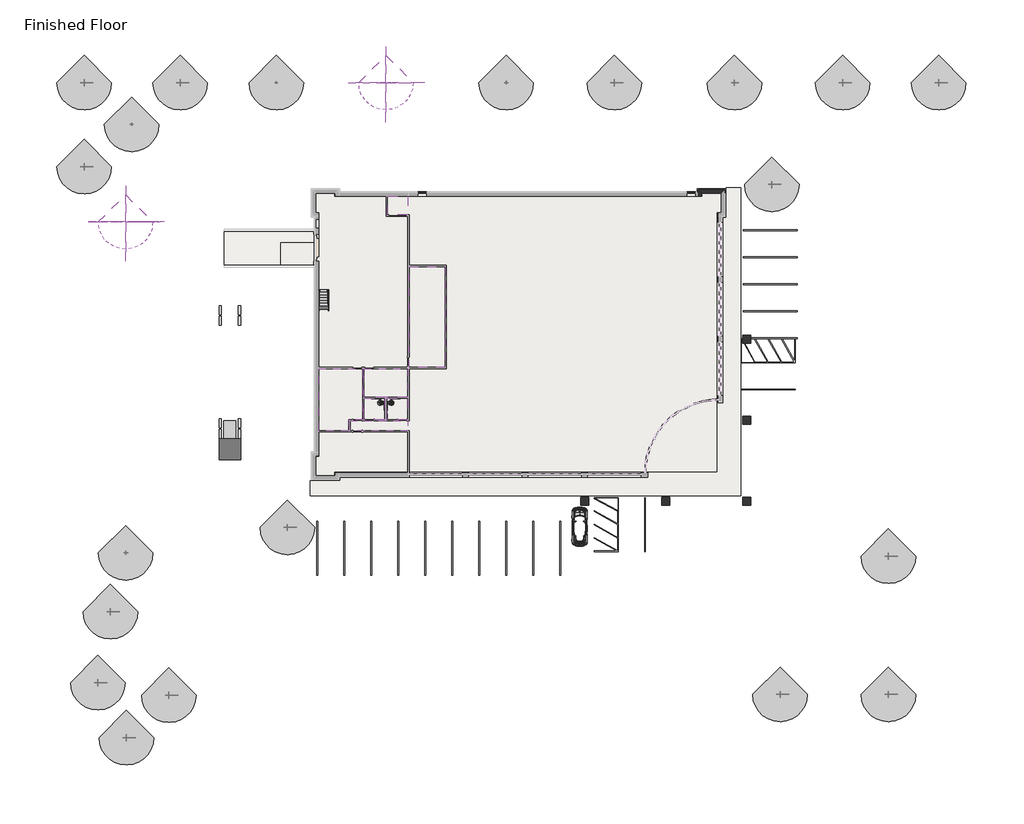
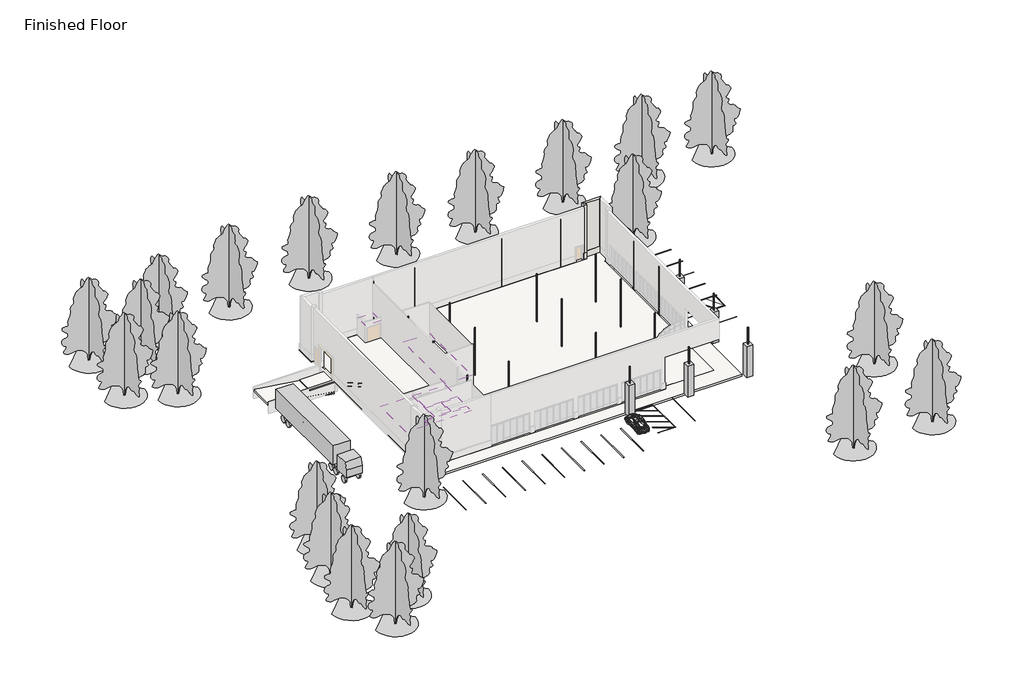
# One storey, part 6 of 6: 34 columns, 27 proxies, 22 geographic elements, 7 coverings, 4 slabs, 4 walls, 2 flow terminals, 2 members, 3 other elements.
"""IFC4 building model written with IfcOpenShell, lengths in millimetres."""

from ifc_helpers import new_model, si_unit, point, frame, frame_2d, origin, origin_with_axes, place, context, project, spatial, polyline, circle_curve, trimmed, segment, composite_curve, outline, extrude, faceted_brep, transform, mapped, element, save
from components import specialty_equipment_9c1522b1, specialty_equipment_28a0cf3e, proxy_832_grab_bars_51fee9e1, proxy_832_grab_bars_99aa9c40, proxy_832_grab_bars_3fec91fc, proxy_832_grab_bars_8b3c1caf, parking_space_ada_44d2459f, parking_space_ada_2abbe88e, parking_space_9_x_18_90_deg_9fe051ab, parking_space_9_x_18_90_deg_b8b21359, rpc_beetle_rpc_beetle_e6dad58a, sa12_a1c1abd2, sa12_6de3b1ef, semi_truck_semi_truck_f452f70d, hss_hollow_structural_section_column_hss4x4x1_4_63ca78b6, flow_terminal_a7ec1c32, flow_terminal_bb9b5f27, rpc_tree_deciduous_lombardy_poplar_40_01077960, guardrail_pipe_35f92d01, guardrail_pipe_0cfc6b11, stair_flight_92ed7c1f

model = new_model("IFC4")

# Units and contexts
model_context = context("Model", 3, world=origin())
ifc_project = project(units=[si_unit("LENGTHUNIT", "METRE", prefix="MILLI")], contexts=[model_context])

# Site, building, storey
site = spatial("IfcSite", under=ifc_project)
building = spatial("IfcBuilding", under=site)
storey = spatial("IfcBuildingStorey", under=building, Name="Finished Floor", Elevation=0.0)

# Proxies
placement = place(None, origin())
specialty_equipment_shape = specialty_equipment_9c1522b1(model_context)
element("IfcBuildingElementProxy", 1, Name="Bradley-Washroom_Accessories-Mirrors-740_Custom : Bradley-Washroom_Accessories-Mirrors-740_Custom", ObjectType="Bradley-Washroom_Accessories-Mirrors-740_Custom : Bradley-Washroom_Accessories-Mirrors-740_Custom", at=placement, inside=storey, context=model_context, shape_type="MappedRepresentation", body=[
    mapped(specialty_equipment_shape, transform((-15156.6602721, -8294.2625557, 1371.0753881), x_axis=(0.0, 1.0, 0.0), y_axis=(0.0, 0.0, 1.0), z_axis=(1.0, 0.0, 0.0))),
])
specialty_equipment_2_shape = specialty_equipment_28a0cf3e(model_context)
element("IfcBuildingElementProxy", 2, Name="Bradley-Washroom_Accessories-Mirrors-740_Custom : Bradley-Washroom_Accessories-Mirrors-740_Custom", ObjectType="Bradley-Washroom_Accessories-Mirrors-740_Custom : Bradley-Washroom_Accessories-Mirrors-740_Custom", at=placement, inside=storey, context=model_context, shape_type="MappedRepresentation", body=[
    mapped(specialty_equipment_2_shape, transform((-15328.1102721, -8294.2625557, 1371.0753881), x_axis=(0.0, 1.0, 0.0), y_axis=(0.0, 0.0, -1.0), z_axis=(-1.0, 0.0, 0.0))),
])
proxy_832_grab_bars_shape = proxy_832_grab_bars_51fee9e1(model_context)
element("IfcBuildingElementProxy", 3, Name="832_Grab_Bars : 8320-001360", ObjectType="832_Grab_Bars : 8320-001360", at=placement, inside=storey, context=model_context, shape_type="MappedRepresentation", body=[
    mapped(proxy_832_grab_bars_shape, transform((-15156.6602721, -7387.8000557, 1374.775), x_axis=(0.0, 1.0, 0.0), y_axis=(0.0, 0.0, 1.0), z_axis=(1.0, 0.0, 0.0))),
])
proxy_832_grab_bars_2_shape = proxy_832_grab_bars_99aa9c40(model_context)
element("IfcBuildingElementProxy", 4, Name="832_Grab_Bars : 8320-001420", ObjectType="832_Grab_Bars : 8320-001420", at=placement, inside=storey, context=model_context, shape_type="MappedRepresentation", body=[
    mapped(proxy_832_grab_bars_2_shape, transform((-14395.8938987, -6516.2625557, 1374.775), x_axis=(1.0, 0.0, 0.0), y_axis=(0.0, 0.0, 1.0), z_axis=(0.0, -1.0, 0.0))),
])
proxy_832_grab_bars_3_shape = proxy_832_grab_bars_3fec91fc(model_context)
element("IfcBuildingElementProxy", 5, Name="832_Grab_Bars : 8320-001360", ObjectType="832_Grab_Bars : 8320-001360", at=placement, inside=storey, context=model_context, shape_type="MappedRepresentation", body=[
    mapped(proxy_832_grab_bars_3_shape, transform((-15328.1102721, -7387.8000557, 1374.775), x_axis=(0.0, 1.0, 0.0), y_axis=(0.0, 0.0, -1.0), z_axis=(-1.0, 0.0, 0.0))),
])
proxy_832_grab_bars_4_shape = proxy_832_grab_bars_8b3c1caf(model_context)
element("IfcBuildingElementProxy", 6, Name="832_Grab_Bars : 8320-001420", ObjectType="832_Grab_Bars : 8320-001420", at=placement, inside=storey, context=model_context, shape_type="MappedRepresentation", body=[
    mapped(proxy_832_grab_bars_4_shape, transform((-16088.8766454, -6516.2625557, 1374.775), x_axis=(-1.0, 0.0, 0.0), y_axis=(0.0, 0.0, -1.0), z_axis=(0.0, -1.0, 0.0))),
])
parking_space_ada_shape = parking_space_ada_44d2459f(model_context)
element("IfcBuildingElementProxy", 7, Name="Parking Space - ADA : 9' x 18' (8' Aisle)", ObjectType="Parking Space - ADA : 9' x 18' (8' Aisle)", at=placement, inside=storey, context=model_context, shape_type="MappedRepresentation", body=[
    mapped(parking_space_ada_shape, transform((21677.3525664, -6888.3808535, 0.0), x_axis=(0.0, 1.0, 0.0), y_axis=(-1.0, 0.0, 0.0), z_axis=(0.0, 0.0, 1.0))),
])
parking_space_ada_2_shape = parking_space_ada_2abbe88e(model_context)
element("IfcBuildingElementProxy", 8, Name="Parking Space - ADA : 9' x 18' (8' Aisle)", ObjectType="Parking Space - ADA : 9' x 18' (8' Aisle)", at=placement, inside=storey, context=model_context, shape_type="MappedRepresentation", body=[
    mapped(parking_space_ada_2_shape, transform((12311.5767758, -17454.1566441, 0.0), x_axis=(-1.0, 0.0, 0.0), y_axis=(0.0, -1.0, 0.0), z_axis=(0.0, 0.0, 1.0))),
])
parking_space_9_x_18_90_deg_shape = parking_space_9_x_18_90_deg_9fe051ab(model_context)
element("IfcBuildingElementProxy", 9, Name="Parking Space : 9' x 18' - 90 deg", ObjectType="Parking Space : 9' x 18' - 90 deg", at=placement, inside=storey, context=model_context, shape_type="MappedRepresentation", body=[
    mapped(parking_space_9_x_18_90_deg_shape, transform((2465.0147279, -18994.9313057, 0.0), x_axis=(-1.0, 0.0, 0.0), y_axis=(0.0, -1.0, 0.0), z_axis=(0.0, 0.0, 1.0))),
])
element("IfcBuildingElementProxy", 10, Name="Parking Space : 9' x 18' - 90 deg", ObjectType="Parking Space : 9' x 18' - 90 deg", at=placement, inside=storey, context=model_context, shape_type="MappedRepresentation", body=[
    mapped(parking_space_9_x_18_90_deg_shape, transform((-278.1852721, -18994.9313057, 0.0), x_axis=(-1.0, 0.0, 0.0), y_axis=(0.0, -1.0, 0.0), z_axis=(0.0, 0.0, 1.0))),
])
element("IfcBuildingElementProxy", 11, Name="Parking Space : 9' x 18' - 90 deg", ObjectType="Parking Space : 9' x 18' - 90 deg", at=placement, inside=storey, context=model_context, shape_type="MappedRepresentation", body=[
    mapped(parking_space_9_x_18_90_deg_shape, transform((-3021.3852721, -18994.9313057, 0.0), x_axis=(-1.0, 0.0, 0.0), y_axis=(0.0, -1.0, 0.0), z_axis=(0.0, 0.0, 1.0))),
])
element("IfcBuildingElementProxy", 12, Name="Parking Space : 9' x 18' - 90 deg", ObjectType="Parking Space : 9' x 18' - 90 deg", at=placement, inside=storey, context=model_context, shape_type="MappedRepresentation", body=[
    mapped(parking_space_9_x_18_90_deg_shape, transform((-5764.5852721, -18994.9313057, 0.0), x_axis=(-1.0, 0.0, 0.0), y_axis=(0.0, -1.0, 0.0), z_axis=(0.0, 0.0, 1.0))),
])
element("IfcBuildingElementProxy", 13, Name="Parking Space : 9' x 18' - 90 deg", ObjectType="Parking Space : 9' x 18' - 90 deg", at=placement, inside=storey, context=model_context, shape_type="MappedRepresentation", body=[
    mapped(parking_space_9_x_18_90_deg_shape, transform((-8507.7852721, -18994.9313057, 0.0), x_axis=(-1.0, 0.0, 0.0), y_axis=(0.0, -1.0, 0.0), z_axis=(0.0, 0.0, 1.0))),
])
element("IfcBuildingElementProxy", 14, Name="Parking Space : 9' x 18' - 90 deg", ObjectType="Parking Space : 9' x 18' - 90 deg", at=placement, inside=storey, context=model_context, shape_type="MappedRepresentation", body=[
    mapped(parking_space_9_x_18_90_deg_shape, transform((-11250.9852721, -18994.9313057, 0.0), x_axis=(-1.0, 0.0, 0.0), y_axis=(0.0, -1.0, 0.0), z_axis=(0.0, 0.0, 1.0))),
])
element("IfcBuildingElementProxy", 15, Name="Parking Space : 9' x 18' - 90 deg", ObjectType="Parking Space : 9' x 18' - 90 deg", at=placement, inside=storey, context=model_context, shape_type="MappedRepresentation", body=[
    mapped(parking_space_9_x_18_90_deg_shape, transform((-13994.1852721, -18994.9313057, 0.0), x_axis=(-1.0, 0.0, 0.0), y_axis=(0.0, -1.0, 0.0), z_axis=(0.0, 0.0, 1.0))),
])
element("IfcBuildingElementProxy", 16, Name="Parking Space : 9' x 18' - 90 deg", ObjectType="Parking Space : 9' x 18' - 90 deg", at=placement, inside=storey, context=model_context, shape_type="MappedRepresentation", body=[
    mapped(parking_space_9_x_18_90_deg_shape, transform((-16737.3852721, -18994.9313057, 0.0), x_axis=(-1.0, 0.0, 0.0), y_axis=(0.0, -1.0, 0.0), z_axis=(0.0, 0.0, 1.0))),
])
element("IfcBuildingElementProxy", 17, Name="Parking Space : 9' x 18' - 90 deg", ObjectType="Parking Space : 9' x 18' - 90 deg", at=placement, inside=storey, context=model_context, shape_type="MappedRepresentation", body=[
    mapped(parking_space_9_x_18_90_deg_shape, transform((-19480.5852721, -18994.9313057, 0.0), x_axis=(-1.0, 0.0, 0.0), y_axis=(0.0, -1.0, 0.0), z_axis=(0.0, 0.0, 1.0))),
])
element("IfcBuildingElementProxy", 18, Name="Parking Space : 9' x 18' - 90 deg", ObjectType="Parking Space : 9' x 18' - 90 deg", at=placement, inside=storey, context=model_context, shape_type="MappedRepresentation", body=[
    mapped(parking_space_9_x_18_90_deg_shape, transform((-22223.7852721, -18994.9313057, 0.0), x_axis=(-1.0, 0.0, 0.0), y_axis=(0.0, -1.0, 0.0), z_axis=(0.0, 0.0, 1.0))),
])
parking_space_9_x_18_90_deg_2_shape = parking_space_9_x_18_90_deg_b8b21359(model_context)
element("IfcBuildingElementProxy", 19, Name="Parking Space : 9' x 18' - 90 deg", ObjectType="Parking Space : 9' x 18' - 90 deg", at=placement, inside=storey, context=model_context, shape_type="MappedRepresentation", body=[
    mapped(parking_space_9_x_18_90_deg_2_shape, transform((21018.1272279, -441.8188057, 0.0), x_axis=(0.0, 1.0, 0.0), y_axis=(-1.0, 0.0, 0.0), z_axis=(0.0, 0.0, 1.0))),
])
element("IfcBuildingElementProxy", 20, Name="Parking Space : 9' x 18' - 90 deg", ObjectType="Parking Space : 9' x 18' - 90 deg", at=placement, inside=storey, context=model_context, shape_type="MappedRepresentation", body=[
    mapped(parking_space_9_x_18_90_deg_2_shape, transform((21018.1272279, 2301.3811943, 0.0), x_axis=(0.0, 1.0, 0.0), y_axis=(-1.0, 0.0, 0.0), z_axis=(0.0, 0.0, 1.0))),
])
element("IfcBuildingElementProxy", 21, Name="Parking Space : 9' x 18' - 90 deg", ObjectType="Parking Space : 9' x 18' - 90 deg", at=placement, inside=storey, context=model_context, shape_type="MappedRepresentation", body=[
    mapped(parking_space_9_x_18_90_deg_2_shape, transform((21018.1272279, 5044.5811943, 0.0), x_axis=(0.0, 1.0, 0.0), y_axis=(-1.0, 0.0, 0.0), z_axis=(0.0, 0.0, 1.0))),
])
element("IfcBuildingElementProxy", 22, Name="Parking Space : 9' x 18' - 90 deg", ObjectType="Parking Space : 9' x 18' - 90 deg", at=placement, inside=storey, context=model_context, shape_type="MappedRepresentation", body=[
    mapped(parking_space_9_x_18_90_deg_2_shape, transform((21018.1272279, 7787.7811943, 0.0), x_axis=(0.0, 1.0, 0.0), y_axis=(-1.0, 0.0, 0.0), z_axis=(0.0, 0.0, 1.0))),
])
element("IfcBuildingElementProxy", 23, Name="Parking Space : 9' x 18' - 90 deg", ObjectType="Parking Space : 9' x 18' - 90 deg", at=placement, inside=storey, context=model_context, shape_type="MappedRepresentation", body=[
    mapped(parking_space_9_x_18_90_deg_2_shape, transform((21018.1272279, 10530.9811943, 0.0), x_axis=(0.0, 1.0, 0.0), y_axis=(-1.0, 0.0, 0.0), z_axis=(0.0, 0.0, 1.0))),
])
rpc_beetle_rpc_beetle_shape = rpc_beetle_rpc_beetle_e6dad58a(model_context)
element("IfcBuildingElementProxy", 24, Name="RPC Beetle : RPC Beetle", ObjectType="RPC Beetle : RPC Beetle", at=placement, inside=storey, context=model_context, shape_type="MappedRepresentation", body=[
    mapped(rpc_beetle_rpc_beetle_shape, transform((4429.9147279, -20779.5188057, -150.0), x_axis=(1.0, 0.0, 0.0), y_axis=(0.0, 1.0, 0.0), z_axis=(0.0, 0.0, 1.0))),
])
sa12_shape = sa12_a1c1abd2(model_context)
element("IfcBuildingElementProxy", 25, Name="Security_Accessories-Bradley-SA12 : SA12", ObjectType="Security_Accessories-Bradley-SA12 : SA12", at=placement, inside=storey, context=model_context, shape_type="MappedRepresentation", body=[
    mapped(sa12_shape, transform((-14264.4852721, -6516.2625557, 482.6), x_axis=(1.0, 0.0, 0.0), y_axis=(0.0, 0.0, 1.0), z_axis=(0.0, -1.0, 0.0))),
])
sa12_2_shape = sa12_6de3b1ef(model_context)
element("IfcBuildingElementProxy", 26, Name="Security_Accessories-Bradley-SA12 : SA12", ObjectType="Security_Accessories-Bradley-SA12 : SA12", at=placement, inside=storey, context=model_context, shape_type="MappedRepresentation", body=[
    mapped(sa12_2_shape, transform((-16137.7352721, -6516.2625557, 310.7591476), x_axis=(-1.0, 0.0, 0.0), y_axis=(0.0, 0.0, -1.0), z_axis=(0.0, -1.0, 0.0))),
])
semi_truck_semi_truck_shape = semi_truck_semi_truck_f452f70d(model_context)
element("IfcBuildingElementProxy", 27, Name="Semi Truck : Semi Truck", ObjectType="Semi Truck : Semi Truck", at=placement, inside=storey, context=model_context, shape_type="MappedRepresentation", body=[
    mapped(semi_truck_semi_truck_shape, transform((-32286.4602721, 4009.6561943, 0.0), x_axis=(0.0, -1.0, 0.0), y_axis=(1.0, 0.0, 0.0), z_axis=(0.0, 0.0, 1.0))),
])

# Columns
hss_hollow_structural_section_column_hss4x4x1_4_shape = hss_hollow_structural_section_column_hss4x4x1_4_63ca78b6(model_context)
element("IfcColumn", 28, ObjectType="HSS-Hollow Structural Section-Column : HSS4X4X1/4", at=placement, inside=storey, context=model_context, shape_type="MappedRepresentation", body=[
    mapped(hss_hollow_structural_section_column_hss4x4x1_4_shape, transform((-22117.8477721, -514.7188057, 0.0), x_axis=(-1.0, 0.0, 0.0), y_axis=(0.0, -1.0, 0.0), z_axis=(0.0, 0.0, 1.0))),
])
element("IfcColumn", 29, ObjectType="HSS-Hollow Structural Section-Column : HSS4X4X1/4", at=placement, inside=storey, context=model_context, shape_type="MappedRepresentation", body=[
    mapped(hss_hollow_structural_section_column_hss4x4x1_4_shape, transform((-22117.8477721, -8730.8250557, 0.0), x_axis=(-1.0, 0.0, 0.0), y_axis=(0.0, -1.0, 0.0), z_axis=(0.0, 0.0, 1.0))),
])
element("IfcColumn", 30, ObjectType="HSS-Hollow Structural Section-Column : HSS4X4X1/4", at=placement, inside=storey, context=model_context, shape_type="MappedRepresentation", body=[
    mapped(hss_hollow_structural_section_column_hss4x4x1_4_shape, transform((-22117.8477721, 5555.8811943, 0.0), x_axis=(-1.0, 0.0, 0.0), y_axis=(0.0, -1.0, 0.0), z_axis=(0.0, 0.0, 1.0))),
])
element("IfcColumn", 31, ObjectType="HSS-Hollow Structural Section-Column : HSS4X4X1/4", at=placement, inside=storey, context=model_context, shape_type="MappedRepresentation", body=[
    mapped(hss_hollow_structural_section_column_hss4x4x1_4_shape, transform((-12943.6852721, 14044.2436943, 0.0), x_axis=(-1.0, 0.0, 0.0), y_axis=(0.0, -1.0, 0.0), z_axis=(0.0, 0.0, 1.0))),
])
element("IfcColumn", 32, ObjectType="HSS-Hollow Structural Section-Column : HSS4X4X1/4", at=placement, inside=storey, context=model_context, shape_type="MappedRepresentation", body=[
    mapped(hss_hollow_structural_section_column_hss4x4x1_4_shape, transform((-12943.6852721, -514.7188057, 0.0), x_axis=(-1.0, 0.0, 0.0), y_axis=(0.0, -1.0, 0.0), z_axis=(0.0, 0.0, 1.0))),
])
element("IfcColumn", 33, ObjectType="HSS-Hollow Structural Section-Column : HSS4X4X1/4", at=placement, inside=storey, context=model_context, shape_type="MappedRepresentation", body=[
    mapped(hss_hollow_structural_section_column_hss4x4x1_4_shape, transform((-12943.6852721, -8730.8250557, 0.0), x_axis=(-1.0, 0.0, 0.0), y_axis=(0.0, -1.0, 0.0), z_axis=(0.0, 0.0, 1.0))),
])
element("IfcColumn", 34, ObjectType="HSS-Hollow Structural Section-Column : HSS4X4X1/4", at=placement, inside=storey, context=model_context, shape_type="MappedRepresentation", body=[
    mapped(hss_hollow_structural_section_column_hss4x4x1_4_shape, transform((-12943.6852721, -14105.3063057, 0.0), x_axis=(-1.0, 0.0, 0.0), y_axis=(0.0, -1.0, 0.0), z_axis=(0.0, 0.0, 1.0))),
])
element("IfcColumn", 35, ObjectType="HSS-Hollow Structural Section-Column : HSS4X4X1/4", at=placement, inside=storey, context=model_context, shape_type="MappedRepresentation", body=[
    mapped(hss_hollow_structural_section_column_hss4x4x1_4_shape, transform((-12943.6852721, 5555.8811943, 0.0), x_axis=(-1.0, 0.0, 0.0), y_axis=(0.0, -1.0, 0.0), z_axis=(0.0, 0.0, 1.0))),
])
element("IfcColumn", 36, ObjectType="HSS-Hollow Structural Section-Column : HSS4X4X1/4", at=placement, inside=storey, context=model_context, shape_type="MappedRepresentation", body=[
    mapped(hss_hollow_structural_section_column_hss4x4x1_4_shape, transform((4937.9147279, 14044.2436943, 0.0), x_axis=(-1.0, 0.0, 0.0), y_axis=(0.0, -1.0, 0.0), z_axis=(0.0, 0.0, 1.0))),
])
element("IfcColumn", 37, ObjectType="HSS-Hollow Structural Section-Column : HSS4X4X1/4", at=placement, inside=storey, context=model_context, shape_type="MappedRepresentation", body=[
    mapped(hss_hollow_structural_section_column_hss4x4x1_4_shape, transform((4937.9147279, -514.7188057, 0.0), x_axis=(-1.0, 0.0, 0.0), y_axis=(0.0, -1.0, 0.0), z_axis=(0.0, 0.0, 1.0))),
])
element("IfcColumn", 38, ObjectType="HSS-Hollow Structural Section-Column : HSS4X4X1/4", at=placement, inside=storey, context=model_context, shape_type="MappedRepresentation", body=[
    mapped(hss_hollow_structural_section_column_hss4x4x1_4_shape, transform((4937.9147279, -8730.8250557, 0.0), x_axis=(-1.0, 0.0, 0.0), y_axis=(0.0, -1.0, 0.0), z_axis=(0.0, 0.0, 1.0))),
])
element("IfcColumn", 39, ObjectType="HSS-Hollow Structural Section-Column : HSS4X4X1/4", at=placement, inside=storey, context=model_context, shape_type="MappedRepresentation", body=[
    mapped(hss_hollow_structural_section_column_hss4x4x1_4_shape, transform((4937.9147279, -14105.3063057, 0.0), x_axis=(-1.0, 0.0, 0.0), y_axis=(0.0, -1.0, 0.0), z_axis=(0.0, 0.0, 1.0))),
])
element("IfcColumn", 40, ObjectType="HSS-Hollow Structural Section-Column : HSS4X4X1/4", at=placement, inside=storey, context=model_context, shape_type="MappedRepresentation", body=[
    mapped(hss_hollow_structural_section_column_hss4x4x1_4_shape, transform((4937.9147279, -16946.9313057, 0.0), x_axis=(-1.0, 0.0, 0.0), y_axis=(0.0, -1.0, 0.0), z_axis=(0.0, 0.0, 1.0))),
])
element("IfcColumn", 41, ObjectType="HSS-Hollow Structural Section-Column : HSS4X4X1/4", at=placement, inside=storey, context=model_context, shape_type="MappedRepresentation", body=[
    mapped(hss_hollow_structural_section_column_hss4x4x1_4_shape, transform((4937.9147279, 5555.8811943, 0.0), x_axis=(-1.0, 0.0, 0.0), y_axis=(0.0, -1.0, 0.0), z_axis=(0.0, 0.0, 1.0))),
])
element("IfcColumn", 42, ObjectType="HSS-Hollow Structural Section-Column : HSS4X4X1/4", at=placement, inside=storey, context=model_context, shape_type="MappedRepresentation", body=[
    mapped(hss_hollow_structural_section_column_hss4x4x1_4_shape, transform((13154.0209779, 14044.2436943, 0.0), x_axis=(-1.0, 0.0, 0.0), y_axis=(0.0, -1.0, 0.0), z_axis=(0.0, 0.0, 1.0))),
])
element("IfcColumn", 43, ObjectType="HSS-Hollow Structural Section-Column : HSS4X4X1/4", at=placement, inside=storey, context=model_context, shape_type="MappedRepresentation", body=[
    mapped(hss_hollow_structural_section_column_hss4x4x1_4_shape, transform((13154.0209779, -514.7188057, 0.0), x_axis=(-1.0, 0.0, 0.0), y_axis=(0.0, -1.0, 0.0), z_axis=(0.0, 0.0, 1.0))),
])
element("IfcColumn", 44, ObjectType="HSS-Hollow Structural Section-Column : HSS4X4X1/4", at=placement, inside=storey, context=model_context, shape_type="MappedRepresentation", body=[
    mapped(hss_hollow_structural_section_column_hss4x4x1_4_shape, transform((13154.0209779, -8730.8250557, 0.0), x_axis=(-1.0, 0.0, 0.0), y_axis=(0.0, -1.0, 0.0), z_axis=(0.0, 0.0, 1.0))),
])
element("IfcColumn", 45, ObjectType="HSS-Hollow Structural Section-Column : HSS4X4X1/4", at=placement, inside=storey, context=model_context, shape_type="MappedRepresentation", body=[
    mapped(hss_hollow_structural_section_column_hss4x4x1_4_shape, transform((13154.0209779, -16946.9313057, 0.0), x_axis=(-1.0, 0.0, 0.0), y_axis=(0.0, -1.0, 0.0), z_axis=(0.0, 0.0, 1.0))),
])
element("IfcColumn", 46, ObjectType="HSS-Hollow Structural Section-Column : HSS4X4X1/4", at=placement, inside=storey, context=model_context, shape_type="MappedRepresentation", body=[
    mapped(hss_hollow_structural_section_column_hss4x4x1_4_shape, transform((13154.0209779, 5555.8811943, 0.0), x_axis=(-1.0, 0.0, 0.0), y_axis=(0.0, -1.0, 0.0), z_axis=(0.0, 0.0, 1.0))),
])
element("IfcColumn", 47, ObjectType="HSS-Hollow Structural Section-Column : HSS4X4X1/4", at=placement, inside=storey, context=model_context, shape_type="MappedRepresentation", body=[
    mapped(hss_hollow_structural_section_column_hss4x4x1_4_shape, transform((18528.5022279, -514.7188057, 0.0), x_axis=(-1.0, 0.0, 0.0), y_axis=(0.0, -1.0, 0.0), z_axis=(0.0, 0.0, 1.0))),
])
element("IfcColumn", 48, ObjectType="HSS-Hollow Structural Section-Column : HSS4X4X1/4", at=placement, inside=storey, context=model_context, shape_type="MappedRepresentation", body=[
    mapped(hss_hollow_structural_section_column_hss4x4x1_4_shape, transform((18528.5022279, 5555.8811943, 0.0), x_axis=(-1.0, 0.0, 0.0), y_axis=(0.0, -1.0, 0.0), z_axis=(0.0, 0.0, 1.0))),
])
element("IfcColumn", 49, ObjectType="HSS-Hollow Structural Section-Column : HSS4X4X1/4", at=placement, inside=storey, context=model_context, shape_type="MappedRepresentation", body=[
    mapped(hss_hollow_structural_section_column_hss4x4x1_4_shape, transform((21370.1272279, -514.7188057, 0.0), x_axis=(-1.0, 0.0, 0.0), y_axis=(0.0, -1.0, 0.0), z_axis=(0.0, 0.0, 1.0))),
])
element("IfcColumn", 50, ObjectType="HSS-Hollow Structural Section-Column : HSS4X4X1/4", at=placement, inside=storey, context=model_context, shape_type="MappedRepresentation", body=[
    mapped(hss_hollow_structural_section_column_hss4x4x1_4_shape, transform((21370.1272279, -8730.8250557, 0.0), x_axis=(-1.0, 0.0, 0.0), y_axis=(0.0, -1.0, 0.0), z_axis=(0.0, 0.0, 1.0))),
])
element("IfcColumn", 51, ObjectType="HSS-Hollow Structural Section-Column : HSS4X4X1/4", at=placement, inside=storey, context=model_context, shape_type="MappedRepresentation", body=[
    mapped(hss_hollow_structural_section_column_hss4x4x1_4_shape, transform((21370.1272279, -16946.9313057, 0.0), x_axis=(-1.0, 0.0, 0.0), y_axis=(0.0, -1.0, 0.0), z_axis=(0.0, 0.0, 1.0))),
])
element("IfcColumn", 52, ObjectType="HSS-Hollow Structural Section-Column : HSS4X4X1/4", at=placement, inside=storey, context=model_context, shape_type="MappedRepresentation", body=[
    mapped(hss_hollow_structural_section_column_hss4x4x1_4_shape, transform((-7177.8852721, 14044.2436943, 0.0), x_axis=(-1.0, 0.0, 0.0), y_axis=(0.0, -1.0, 0.0), z_axis=(0.0, 0.0, 1.0))),
])
element("IfcColumn", 53, ObjectType="HSS-Hollow Structural Section-Column : HSS4X4X1/4", at=placement, inside=storey, context=model_context, shape_type="MappedRepresentation", body=[
    mapped(hss_hollow_structural_section_column_hss4x4x1_4_shape, transform((-7177.8852721, -514.7188057, 0.0), x_axis=(-1.0, 0.0, 0.0), y_axis=(0.0, -1.0, 0.0), z_axis=(0.0, 0.0, 1.0))),
])
element("IfcColumn", 54, ObjectType="HSS-Hollow Structural Section-Column : HSS4X4X1/4", at=placement, inside=storey, context=model_context, shape_type="MappedRepresentation", body=[
    mapped(hss_hollow_structural_section_column_hss4x4x1_4_shape, transform((-7177.8852721, -8730.8250557, 0.0), x_axis=(-1.0, 0.0, 0.0), y_axis=(0.0, -1.0, 0.0), z_axis=(0.0, 0.0, 1.0))),
])
element("IfcColumn", 55, ObjectType="HSS-Hollow Structural Section-Column : HSS4X4X1/4", at=placement, inside=storey, context=model_context, shape_type="MappedRepresentation", body=[
    mapped(hss_hollow_structural_section_column_hss4x4x1_4_shape, transform((-7177.8852721, -14105.3063057, 0.0), x_axis=(-1.0, 0.0, 0.0), y_axis=(0.0, -1.0, 0.0), z_axis=(0.0, 0.0, 1.0))),
])
element("IfcColumn", 56, ObjectType="HSS-Hollow Structural Section-Column : HSS4X4X1/4", at=placement, inside=storey, context=model_context, shape_type="MappedRepresentation", body=[
    mapped(hss_hollow_structural_section_column_hss4x4x1_4_shape, transform((-7177.8852721, 5555.8811943, 0.0), x_axis=(-1.0, 0.0, 0.0), y_axis=(0.0, -1.0, 0.0), z_axis=(0.0, 0.0, 1.0))),
])
element("IfcColumn", 57, ObjectType="Rectangular Column : 32\" x 32\"", at=placement, inside=storey, context=model_context, shape_type="SweptSolid", body=[
    extrude(outline(polyline([(5344.3147279, -16540.5313057), (5344.3147279, -17353.3313057), (4531.5147279, -17353.3313057), (4531.5147279, -16540.5313057), (5344.3147279, -16540.5313057)])), origin_with_axes(), (0.0, 0.0, 1.0), 4572.0),
])
element("IfcColumn", 58, ObjectType="Rectangular Column : 32\" x 32\"", at=placement, inside=storey, context=model_context, shape_type="SweptSolid", body=[
    extrude(outline(polyline([(13560.4209779, -16540.5313057), (13560.4209779, -17353.3313057), (12747.6209779, -17353.3313057), (12747.6209779, -16540.5313057), (13560.4209779, -16540.5313057)])), origin_with_axes(), (0.0, 0.0, 1.0), 4572.0),
])
element("IfcColumn", 59, ObjectType="Rectangular Column : 32\" x 32\"", at=placement, inside=storey, context=model_context, shape_type="SweptSolid", body=[
    extrude(outline(polyline([(21776.5272279, -16540.5313057), (21776.5272279, -17353.3313057), (20963.7272279, -17353.3313057), (20963.7272279, -16540.5313057), (21776.5272279, -16540.5313057)])), origin_with_axes(), (0.0, 0.0, 1.0), 4572.0),
])
element("IfcColumn", 60, ObjectType="Rectangular Column : 32\" x 32\"", at=placement, inside=storey, context=model_context, shape_type="SweptSolid", body=[
    extrude(outline(polyline([(21776.5272279, -8324.4250557), (21776.5272279, -9137.2250557), (20963.7272279, -9137.2250557), (20963.7272279, -8324.4250557), (21776.5272279, -8324.4250557)])), origin_with_axes(), (0.0, 0.0, 1.0), 4572.0),
])
element("IfcColumn", 61, ObjectType="Rectangular Column : 32\" x 32\"", at=placement, inside=storey, context=model_context, shape_type="SweptSolid", body=[
    extrude(outline(polyline([(21776.5272279, -108.3188057), (21776.5272279, -921.1188057), (20963.7272279, -921.1188057), (20963.7272279, -108.3188057), (21776.5272279, -108.3188057)])), origin_with_axes(), (0.0, 0.0, 1.0), 4572.0),
])

# Coverings
element("IfcCovering", 62, ObjectType="24\" x 24\" ACT.", at=placement, inside=storey, context=model_context, shape_type="SweptSolid", body=[
    extrude(outline(polyline([(-18858.7102721, -8795.9125557), (-13013.5352721, -8795.9125557), (-13013.5352721, -9792.8625557), (-18858.7102721, -9792.8625557), (-18858.7102721, -8795.9125557)])), frame((0.0, 0.0, 2438.4), z_axis=(0.0, 0.0, 1.0), x_axis=(1.0, 0.0, 0.0)), (0.0, 0.0, 1.0), 38.1),
])
element("IfcCovering", 63, ObjectType="24\" x 24\" ACT.", at=placement, inside=storey, context=model_context, shape_type="SweptSolid", body=[
    extrude(outline(polyline([(-17461.7102721, -6516.2625557), (-15328.1102721, -6516.2625557), (-15328.1102721, -8675.2625557), (-17461.7102721, -8675.2625557), (-17461.7102721, -6516.2625557)])), frame((0.0, 0.0, 2438.4), z_axis=(0.0, 0.0, 1.0), x_axis=(1.0, 0.0, 0.0)), (0.0, 0.0, 1.0), 38.1),
])
element("IfcCovering", 64, ObjectType="24\" x 24\" ACT.", at=placement, inside=storey, context=model_context, shape_type="SweptSolid", body=[
    extrude(outline(polyline([(-15156.6602721, -6516.2625557), (-13023.0602721, -6516.2625557), (-13023.0602721, -8675.2625557), (-15156.6602721, -8675.2625557), (-15156.6602721, -6516.2625557)])), frame((0.0, 0.0, 2438.4), z_axis=(0.0, 0.0, 1.0), x_axis=(1.0, 0.0, 0.0)), (0.0, 0.0, 1.0), 38.1),
])
element("IfcCovering", 65, ObjectType="24\" x 24\" ACT.", at=placement, inside=storey, context=model_context, shape_type="SweptSolid", body=[
    extrude(outline(polyline([(-13023.0602721, -3500.0125557), (-13023.0602721, -6395.6125557), (-15055.0602721, -6395.6125557), (-17461.7102721, -6395.6125557), (-17461.7102721, -3500.0125557), (-13023.0602721, -3500.0125557)])), frame((0.0, 0.0, 2438.4), z_axis=(0.0, 0.0, 1.0), x_axis=(1.0, 0.0, 0.0)), (0.0, 0.0, 1.0), 38.1),
])
element("IfcCovering", 66, ObjectType="24\" x 24\" ACT.", at=placement, inside=storey, context=model_context, shape_type="SweptSolid", body=[
    extrude(outline(polyline([(-22067.0477721, -9792.8625557), (-22067.0477721, -3500.0125557), (-17582.3602721, -3500.0125557), (-17582.3602721, -8675.2625557), (-18979.3602721, -8675.2625557), (-18979.3602721, -9792.8625557), (-22067.0477721, -9792.8625557)])), frame((0.0, 0.0, 2438.4), z_axis=(0.0, 0.0, 1.0), x_axis=(1.0, 0.0, 0.0)), (0.0, 0.0, 1.0), 38.1),
])
element("IfcCovering", 67, ObjectType="24\" x 24\" ACT.", at=placement, inside=storey, context=model_context, shape_type="SweptSolid", body=[
    extrude(outline(polyline([(-9216.2352721, -3379.3625557), (-12883.3602721, -3379.3625557), (-12883.3602721, 6836.1999443), (-9216.2352721, 6836.1999443), (-9216.2352721, -3379.3625557)])), frame((0.0, 0.0, 2438.4), z_axis=(0.0, 0.0, 1.0), x_axis=(1.0, 0.0, 0.0)), (0.0, 0.0, 1.0), 38.1),
])
element("IfcCovering", 68, ObjectType="24\" x 24\" ACT.", at=placement, inside=storey, context=model_context, shape_type="SweptSolid", body=[
    extrude(outline(polyline([(-13023.0602721, 13993.4436943), (-13023.0602721, 12083.6811943), (-15085.2227721, 12083.6811943), (-15085.2227721, 13993.4436943), (-13023.0602721, 13993.4436943)])), frame((0.0, 0.0, 2438.4), z_axis=(0.0, 0.0, 1.0), x_axis=(1.0, 0.0, 0.0)), (0.0, 0.0, 1.0), 38.1),
])

# Flow terminals
flow_terminal_shape = flow_terminal_a7ec1c32(model_context)
element("IfcFlowTerminal", 69, ObjectType="Toilet-Commercial-Wall-3D : 15\" Seat Height", at=placement, inside=storey, context=model_context, shape_type="MappedRepresentation", body=[
    mapped(flow_terminal_shape, transform((-15242.3852721, -6568.5594018, 0.0), x_axis=(0.0, -1.0, 0.0), y_axis=(1.0, 0.0, 0.0), z_axis=(0.0, 0.0, 1.0))),
])
flow_terminal_2_shape = flow_terminal_bb9b5f27(model_context)
element("IfcFlowTerminal", 70, ObjectType="Toilet-Commercial-Wall-3D : 15\" Seat Height", at=placement, inside=storey, context=model_context, shape_type="MappedRepresentation", body=[
    mapped(flow_terminal_2_shape, transform((-15242.3852721, -6568.5594018, 0.0), x_axis=(0.0, -1.0, 0.0), y_axis=(1.0, 0.0, 0.0), z_axis=(0.0, 0.0, 1.0))),
])

# Geographic elements
rpc_tree_deciduous_lombardy_poplar_40_shape = rpc_tree_deciduous_lombardy_poplar_40_01077960(model_context)
element("IfcGeographicElement", 71, ObjectType="RPC Tree - Deciduous : Lombardy Poplar - 40'", at=placement, inside=storey, context=model_context, shape_type="MappedRepresentation", body=[
    mapped(rpc_tree_deciduous_lombardy_poplar_40_shape, transform((23924.7147279, 15182.8561943, 0.0), x_axis=(1.0, 0.0, 0.0), y_axis=(0.0, 1.0, 0.0), z_axis=(0.0, 0.0, 1.0))),
])
element("IfcGeographicElement", 72, ObjectType="RPC Tree - Deciduous : Lombardy Poplar - 40'", at=placement, inside=storey, context=model_context, shape_type="MappedRepresentation", body=[
    mapped(rpc_tree_deciduous_lombardy_poplar_40_shape, transform((-25228.0602721, -19606.3188057, 0.0), x_axis=(1.0, 0.0, 0.0), y_axis=(0.0, 1.0, 0.0), z_axis=(0.0, 0.0, 1.0))),
])
element("IfcGeographicElement", 73, ObjectType="RPC Tree - Deciduous : Lombardy Poplar - 40'", at=placement, inside=storey, context=model_context, shape_type="MappedRepresentation", body=[
    mapped(rpc_tree_deciduous_lombardy_poplar_40_shape, transform((24756.5272279, -36555.7313057, 0.0), x_axis=(1.0, 0.0, 0.0), y_axis=(0.0, 1.0, 0.0), z_axis=(0.0, 0.0, 1.0))),
])
element("IfcGeographicElement", 74, ObjectType="RPC Tree - Deciduous : Lombardy Poplar - 40'", at=placement, inside=storey, context=model_context, shape_type="MappedRepresentation", body=[
    mapped(rpc_tree_deciduous_lombardy_poplar_40_shape, transform((35758.962333, -22534.9313057, 0.0), x_axis=(1.0, 0.0, 0.0), y_axis=(0.0, 1.0, 0.0), z_axis=(0.0, 0.0, 1.0))),
])
element("IfcGeographicElement", 75, ObjectType="RPC Tree - Deciduous : Lombardy Poplar - 40'", at=placement, inside=storey, context=model_context, shape_type="MappedRepresentation", body=[
    mapped(rpc_tree_deciduous_lombardy_poplar_40_shape, transform((35758.962333, -36555.7313057, 0.0), x_axis=(1.0, 0.0, 0.0), y_axis=(0.0, 1.0, 0.0), z_axis=(0.0, 0.0, 1.0))),
])
element("IfcGeographicElement", 76, ObjectType="RPC Tree - Deciduous : Lombardy Poplar - 40'", at=placement, inside=storey, context=model_context, shape_type="MappedRepresentation", body=[
    mapped(rpc_tree_deciduous_lombardy_poplar_40_shape, transform((40858.962333, 25516.2286529, 0.0), x_axis=(1.0, 0.0, 0.0), y_axis=(0.0, 1.0, 0.0), z_axis=(0.0, 0.0, 1.0))),
])
element("IfcGeographicElement", 77, ObjectType="RPC Tree - Deciduous : Lombardy Poplar - 40'", at=placement, inside=storey, context=model_context, shape_type="MappedRepresentation", body=[
    mapped(rpc_tree_deciduous_lombardy_poplar_40_shape, transform((31105.362333, 25516.2286529, 0.0), x_axis=(1.0, 0.0, 0.0), y_axis=(0.0, 1.0, 0.0), z_axis=(0.0, 0.0, 1.0))),
])
element("IfcGeographicElement", 78, ObjectType="RPC Tree - Deciduous : Lombardy Poplar - 40'", at=placement, inside=storey, context=model_context, shape_type="MappedRepresentation", body=[
    mapped(rpc_tree_deciduous_lombardy_poplar_40_shape, transform((20132.562333, 25516.2286529, 128.3956048), x_axis=(1.0, 0.0, 0.0), y_axis=(0.0, 1.0, 0.0), z_axis=(0.0, 0.0, 1.0))),
])
element("IfcGeographicElement", 79, ObjectType="RPC Tree - Deciduous : Lombardy Poplar - 40'", at=placement, inside=storey, context=model_context, shape_type="MappedRepresentation", body=[
    mapped(rpc_tree_deciduous_lombardy_poplar_40_shape, transform((7937.387333, 25516.2286529, 0.0), x_axis=(1.0, 0.0, 0.0), y_axis=(0.0, 1.0, 0.0), z_axis=(0.0, 0.0, 1.0))),
])
element("IfcGeographicElement", 80, ObjectType="RPC Tree - Deciduous : Lombardy Poplar - 40'", at=placement, inside=storey, context=model_context, shape_type="MappedRepresentation", body=[
    mapped(rpc_tree_deciduous_lombardy_poplar_40_shape, transform((-3035.412667, 25516.2286529, 582.1035451), x_axis=(1.0, 0.0, 0.0), y_axis=(0.0, 1.0, 0.0), z_axis=(0.0, 0.0, 1.0))),
])
element("IfcGeographicElement", 81, ObjectType="RPC Tree - Deciduous : Lombardy Poplar - 40'", at=placement, inside=storey, context=model_context, shape_type="MappedRepresentation", body=[
    mapped(rpc_tree_deciduous_lombardy_poplar_40_shape, transform((-15227.412667, 25516.2286529, 1322.2878048), x_axis=(1.0, 0.0, 0.0), y_axis=(0.0, 1.0, 0.0), z_axis=(0.0, 0.0, 1.0))),
])
element("IfcGeographicElement", 82, ObjectType="RPC Tree - Deciduous : Lombardy Poplar - 40'", at=placement, inside=storey, context=model_context, shape_type="MappedRepresentation", body=[
    mapped(rpc_tree_deciduous_lombardy_poplar_40_shape, transform((-26352.612667, 25516.2286529, 994.8129815), x_axis=(1.0, 0.0, 0.0), y_axis=(0.0, 1.0, 0.0), z_axis=(0.0, 0.0, 1.0))),
])
element("IfcGeographicElement", 83, ObjectType="RPC Tree - Deciduous : Lombardy Poplar - 40'", at=placement, inside=storey, context=model_context, shape_type="MappedRepresentation", body=[
    mapped(rpc_tree_deciduous_lombardy_poplar_40_shape, transform((-36106.212667, 25516.2286529, 0.0), x_axis=(1.0, 0.0, 0.0), y_axis=(0.0, 1.0, 0.0), z_axis=(0.0, 0.0, 1.0))),
])
element("IfcGeographicElement", 84, ObjectType="RPC Tree - Deciduous : Lombardy Poplar - 40'", at=placement, inside=storey, context=model_context, shape_type="MappedRepresentation", body=[
    mapped(rpc_tree_deciduous_lombardy_poplar_40_shape, transform((-45859.812667, 25516.2286529, 0.0), x_axis=(1.0, 0.0, 0.0), y_axis=(0.0, 1.0, 0.0), z_axis=(0.0, 0.0, 1.0))),
])
element("IfcGeographicElement", 85, ObjectType="RPC Tree - Deciduous : Lombardy Poplar - 40'", at=placement, inside=storey, context=model_context, shape_type="MappedRepresentation", body=[
    mapped(rpc_tree_deciduous_lombardy_poplar_40_shape, transform((-41039.2602721, 21279.2311943, 656.9543256), x_axis=(1.0, 0.0, 0.0), y_axis=(0.0, 1.0, 0.0), z_axis=(0.0, 0.0, 1.0))),
])
element("IfcGeographicElement", 86, ObjectType="RPC Tree - Deciduous : Lombardy Poplar - 40'", at=placement, inside=storey, context=model_context, shape_type="MappedRepresentation", body=[
    mapped(rpc_tree_deciduous_lombardy_poplar_40_shape, transform((-41648.8602721, 11373.2311943, 2154.3458455), x_axis=(1.0, 0.0, 0.0), y_axis=(0.0, 1.0, 0.0), z_axis=(0.0, 0.0, 1.0))),
])
element("IfcGeographicElement", 87, ObjectType="RPC Tree - Deciduous : Lombardy Poplar - 40'", at=placement, inside=storey, context=model_context, shape_type="MappedRepresentation", body=[
    mapped(rpc_tree_deciduous_lombardy_poplar_40_shape, transform((-41648.8602721, -22206.3188057, 433.1668917), x_axis=(1.0, 0.0, 0.0), y_axis=(0.0, 1.0, 0.0), z_axis=(0.0, 0.0, 1.0))),
])
element("IfcGeographicElement", 88, ObjectType="RPC Tree - Deciduous : Lombardy Poplar - 40'", at=placement, inside=storey, context=model_context, shape_type="MappedRepresentation", body=[
    mapped(rpc_tree_deciduous_lombardy_poplar_40_shape, transform((-45859.812667, 16981.8286529, 0.0), x_axis=(1.0, 0.0, 0.0), y_axis=(0.0, 1.0, 0.0), z_axis=(0.0, 0.0, 1.0))),
])
element("IfcGeographicElement", 89, ObjectType="RPC Tree - Deciduous : Lombardy Poplar - 40'", at=placement, inside=storey, context=model_context, shape_type="MappedRepresentation", body=[
    mapped(rpc_tree_deciduous_lombardy_poplar_40_shape, transform((-43179.8767573, -28154.3947556, 0.0), x_axis=(1.0, 0.0, 0.0), y_axis=(0.0, 1.0, 0.0), z_axis=(0.0, 0.0, 1.0))),
])
element("IfcGeographicElement", 90, ObjectType="RPC Tree - Deciduous : Lombardy Poplar - 40'", at=placement, inside=storey, context=model_context, shape_type="MappedRepresentation", body=[
    mapped(rpc_tree_deciduous_lombardy_poplar_40_shape, transform((-44450.1479065, -35358.4604304, 0.0), x_axis=(1.0, 0.0, 0.0), y_axis=(0.0, 1.0, 0.0), z_axis=(0.0, 0.0, 1.0))),
])
element("IfcGeographicElement", 91, ObjectType="RPC Tree - Deciduous : Lombardy Poplar - 40'", at=placement, inside=storey, context=model_context, shape_type="MappedRepresentation", body=[
    mapped(rpc_tree_deciduous_lombardy_poplar_40_shape, transform((-37246.0822317, -36628.7315797, 0.0), x_axis=(1.0, 0.0, 0.0), y_axis=(0.0, 1.0, 0.0), z_axis=(0.0, 0.0, 1.0))),
])
element("IfcGeographicElement", 92, ObjectType="RPC Tree - Deciduous : Lombardy Poplar - 40'", at=placement, inside=storey, context=model_context, shape_type="MappedRepresentation", body=[
    mapped(rpc_tree_deciduous_lombardy_poplar_40_shape, transform((-41556.6051698, -40939.2545178, 0.0), x_axis=(1.0, 0.0, 0.0), y_axis=(0.0, 1.0, 0.0), z_axis=(0.0, 0.0, 1.0))),
])

# Members
element("IfcMember", 93, ObjectType="Stringer - 2\" Width", at=placement, inside=storey, context=model_context, shape_type="SweptSolid", body=[
    extrude(outline(polyline([(4514.4811943, 214.5443726), (4514.4811943, 0.0), (4283.3824426, 0.0), (-514.7188057, 3030.3797357), (-514.7188057, 3390.8812147), (4514.4811943, 214.5443726)])), frame((-21101.8477721, 0.0, 0.0), z_axis=(1.0, 0.0, 0.0), x_axis=(0.0, 1.0, 0.0)), (0.0, 0.0, 1.0), 50.8),
])
element("IfcMember", 94, ObjectType="Stringer - 2\" Width", at=placement, inside=storey, context=model_context, shape_type="SweptSolid", body=[
    extrude(outline(polyline([(4514.4811943, 214.5443726), (4514.4811943, 0.0), (4283.3824426, 0.0), (-514.7188057, 3030.3797357), (-514.7188057, 3390.8812147), (4514.4811943, 214.5443726)])), frame((-22067.0477721, 0.0, 0.0), z_axis=(1.0, 0.0, 0.0), x_axis=(0.0, 1.0, 0.0)), (0.0, 0.0, 1.0), 50.8),
])

# Railings
guardrail_pipe_shape = guardrail_pipe_35f92d01(model_context)
element("IfcRailing", 95, ObjectType="Guardrail - Pipe", at=placement, inside=storey, context=model_context, shape_type="MappedRepresentation", body=[
    mapped(guardrail_pipe_shape, transform((0.0, 0.0, 0.0), x_axis=(1.0, 0.0, 0.0), y_axis=(0.0, 1.0, 0.0), z_axis=(0.0, 0.0, 1.0))),
])
guardrail_pipe_2_shape = guardrail_pipe_0cfc6b11(model_context)
element("IfcRailing", 96, ObjectType="Guardrail - Pipe", at=placement, inside=storey, context=model_context, shape_type="MappedRepresentation", body=[
    mapped(guardrail_pipe_2_shape, transform((0.0, 0.0, 0.0), x_axis=(1.0, 0.0, 0.0), y_axis=(0.0, 1.0, 0.0), z_axis=(0.0, 0.0, 1.0))),
])

# Slabs
element("IfcSlab", 97, ObjectType="Floor Slab - 4\"", at=placement, inside=storey, context=model_context, shape_type="SweptSolid", body=[
    extrude(outline(composite_curve([segment(polyline([(16442.5272279, 14447.4686943), (16442.5272279, 14752.2686943), (19236.5272279, 14752.2686943), (19236.5272279, 11856.6686943), (18931.7272279, 11856.6686943), (18931.7272279, -6852.0273782)]), True, "CONTINUOUS"), segment(trimmed(circle_curve(frame_2d((18477.7022279, -14054.5063057)), 7216.775), [point((18931.7272279, -6852.0273782))], [point((11275.2233005, -14508.5313057))], True, "CARTESIAN"), True, "CONTINUOUS"), segment(polyline([(11275.2233005, -14508.5313057), (-19930.2727721, -14508.5313057), (-19930.2727721, -14813.3313057), (-22825.8727721, -14813.3313057), (-22825.8727721, -11917.7313057), (-22521.0727721, -11917.7313057), (-22521.0727721, 11856.6686943), (-22825.8727721, 11856.6686943), (-22825.8727721, 14752.2686943), (-19930.2727721, 14752.2686943), (-19930.2727721, 14447.4686943), (16442.5272279, 14447.4686943)]), True, "CONTINUOUS")], self_intersect=False)), frame((0.0, 0.0, -101.6), z_axis=(0.0, 0.0, 1.0), x_axis=(1.0, 0.0, 0.0)), (0.0, 0.0, 1.0), 101.6),
])
element("IfcSlab", 98, ObjectType="Generic 150mm", at=placement, inside=storey, context=model_context, shape_type="SweptSolid", body=[
    extrude(outline(polyline([(16821.5272279, 13914.0686943), (16821.5272279, 14414.0686943), (18851.5272279, 14414.0686943), (18851.5272279, 12384.0686943), (18351.5272279, 12384.0686943), (18351.5272279, -6481.9313057), (18351.5272279, -13977.9313057), (10855.5272279, -13977.9313057), (-20460.4727721, -13977.9313057), (-20460.4727721, -14477.7313057), (-22490.4727721, -14477.7313057), (-22490.4727721, -12447.7313057), (-21990.4727721, -12447.7313057), (-21990.4727721, 6772.0686943), (-25919.4727721, 6772.0686943), (-25919.4727721, 9272.0686943), (-21990.4727721, 9272.0686943), (-21990.4727721, 12384.0686943), (-22490.4727721, 12384.0686943), (-22490.4727721, 14414.0686943), (-20460.4727721, 14414.0686943), (-20460.4727721, 13914.0686943), (16821.5272279, 13914.0686943)])), frame((0.0, 0.0, -150.0), z_axis=(0.0, 0.0, 1.0), x_axis=(1.0, 0.0, 0.0)), (0.0, 0.0, 1.0), 150.0),
])
element("IfcSlab", 99, ObjectType="Generic 300mm", at=placement, inside=storey, context=model_context, shape_type="SweptSolid", body=[
    extrude(outline(polyline([(20780.5272279, -16406.9313057), (-22919.4727721, -16406.9313057), (-22919.4727721, -14906.7313057), (-20031.4727721, -14906.7313057), (-20031.4727721, -14406.9313057), (10855.5272279, -14406.9313057), (10855.5272279, -13977.9313057), (18351.5272279, -13977.9313057), (18351.5272279, -6481.9313057), (18780.5272279, -6481.9313057), (18780.5272279, 11955.0686943), (19280.5272279, 11955.0686943), (19280.5272279, 14843.0686943), (20780.5272279, 14843.0686943), (20780.5272279, -16406.9313057)])), frame((0.0, 0.0, -300.0), z_axis=(0.0, 0.0, 1.0), x_axis=(1.0, 0.0, 0.0)), (0.0, 0.0, 1.0), 300.0),
])
element("IfcSlab", 100, ObjectType="Ramp - 12\"", at=placement, inside=storey, context=model_context, shape_type="SweptSolid", body=[
    extrude(outline(polyline([(-460.2944956, -31624.494325), (-1760.7832889, -22521.0727721), (-1452.8887933, -22521.0727721), (-152.4, -31624.494325), (-460.2944956, -31624.494325)])), frame((0.0, 6776.6686943, 0.0), z_axis=(0.0, 1.0, 0.0), x_axis=(0.0, 0.0, 1.0)), (0.0, 0.0, 1.0), 3835.4),
])

# Stair flight
stair_flight_shape = stair_flight_92ed7c1f(model_context)
element("IfcStairFlight", 101, ObjectType="2\" Tread 1\" Nosing 1/4\" Riser", at=placement, inside=storey, context=model_context, shape_type="MappedRepresentation", body=[
    mapped(stair_flight_shape, transform((0.0, 0.0, 0.0), x_axis=(1.0, 0.0, 0.0), y_axis=(0.0, 1.0, 0.0), z_axis=(0.0, 0.0, 1.0))),
])

# Walls
element("IfcWall", 102, ObjectType="Exterior - Brick on Mtl. Stud", at=placement, inside=storey, context=model_context, shape_type="Brep", body=[
    faceted_brep([(16794.9522279, 13993.4436943, 914.4), (16794.9522279, 14298.2436943, 914.4), (16794.9522279, 14298.2436943, 7924.8), (16794.9522279, 13993.4436943, 7924.8), (16442.5272279, 13993.4436943, 914.4), (16442.5272279, 13993.4436943, 7620.0), (16442.5272279, 13993.4436943, 7924.8), (16442.5272279, 14650.6686943, 7924.8), (16442.5272279, 14650.6686943, 914.4), (16442.5272279, 14345.8686943, 914.4)], [[[0, 1, 2, 3]], [[4, 5, 6, 7, 8, 9]], [[1, 0, 4, 9, 8]], [[3, 2, 7, 6]], [[2, 1, 8, 7]], [[0, 3, 6, 5, 4]]]),
])
element("IfcWall", 103, ObjectType="Exterior - Brick on Mtl. Stud", at=placement, inside=storey, context=model_context, shape_type="SweptSolid", body=[
    extrude(outline(polyline([(18782.5022279, 14298.2436943), (16794.9522279, 14298.2436943), (16442.5272279, 14650.6686943), (19134.9272279, 14650.6686943), (18782.5022279, 14298.2436943)])), frame((0.0, 0.0, 914.4), z_axis=(0.0, 0.0, 1.0), x_axis=(1.0, 0.0, 0.0)), (0.0, 0.0, 1.0), 7010.4),
])
element("IfcWall", 104, ObjectType="Exterior - CMU on Mtl. Stud", at=placement, inside=storey, context=model_context, shape_type="Brep", body=[
    faceted_brep([(16794.9522279, 13993.4436943, 0.0), (16794.9522279, 14298.2436943, 0.0), (16794.9522279, 14752.2686943, 0.0), (16794.9522279, 14752.2686943, 914.4), (16794.9522279, 14298.2436943, 914.4), (16794.9522279, 13993.4436943, 914.4), (16340.9272279, 13993.4436943, 0.0), (16340.9272279, 13993.4436943, 914.4), (16340.9272279, 14447.4686943, 914.4), (16340.9272279, 14752.2686943, 914.4), (16340.9272279, 14752.2686943, 0.0), (16340.9272279, 14447.4686943, 0.0), (16442.5272279, 13993.4436943, 914.4), (16534.6022279, 14752.2686943, 0.0), (16534.6022279, 13993.4436943, 0.0)], [[[0, 1, 2, 3, 4, 5]], [[6, 7, 8, 9, 10, 11]], [[5, 4, 3, 9, 8, 7, 12]], [[3, 2, 13, 10, 9]], [[0, 5, 12, 7, 6, 14]], [[2, 1, 0, 14, 13]], [[14, 6, 11, 10, 13]]]),
])
element("IfcWall", 105, ObjectType="Exterior - CMU on Mtl. Stud", at=placement, inside=storey, context=model_context, shape_type="Brep", body=[
    faceted_brep([(16794.9522279, 14298.2436943, 0.0), (18782.5022279, 14298.2436943, 0.0), (19236.5272279, 14298.2436943, 0.0), (19236.5272279, 14298.2436943, 914.4), (18782.5022279, 14298.2436943, 914.4), (16794.9522279, 14298.2436943, 914.4), (16794.9522279, 14752.2686943, 0.0), (16794.9522279, 14752.2686943, 914.4), (19236.5272279, 14752.2686943, 914.4), (19236.5272279, 14752.2686943, 0.0), (16794.9522279, 14558.5936943, 0.0), (19236.5272279, 14558.5936943, 0.0)], [[[0, 1, 2, 3, 4, 5]], [[6, 7, 8, 9]], [[5, 4, 3, 8, 7]], [[0, 5, 7, 6, 10]], [[3, 2, 11, 9, 8]], [[2, 1, 0, 10, 11]], [[10, 6, 9, 11]]]),
])

save(model, "model.ifc")
